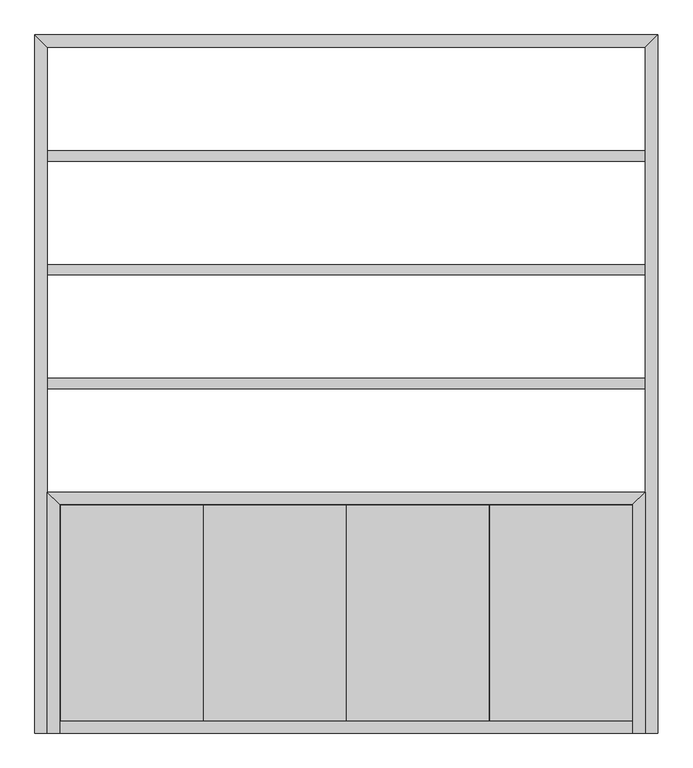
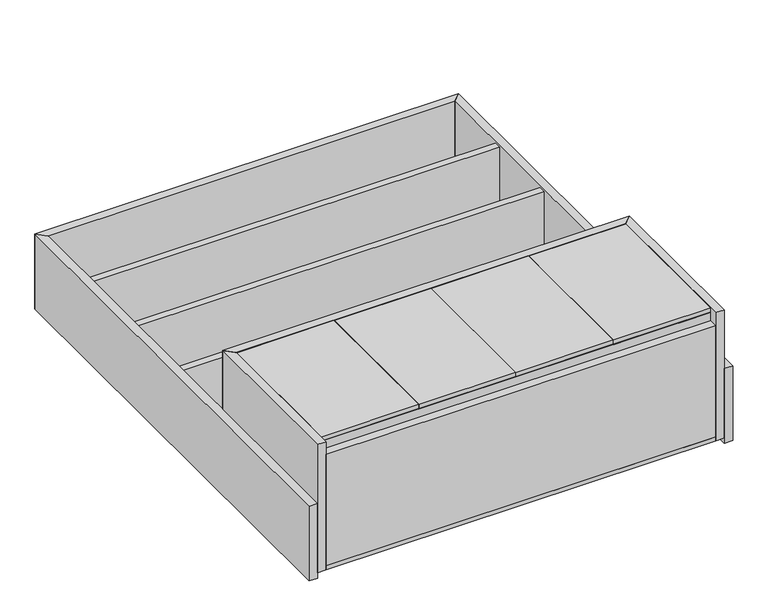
"""IFC4 building model written with IfcOpenShell, lengths in millimetres: proxy geometry, FOUNDATION^LOW CREDENZA UPPER SHELVES_25x84 4 DOOR-PARTS SOLID."""

from ifc_helpers import new_model, si_unit, frame, origin, origin_with_axes, place, context, project, spatial, polyline, outline, extrude, source, transform, mapped, element, save


def generic_models_0d1b17e7(model_context):
    return source(origin(), model_context, "Body", "SweptSolid", [
        extrude(outline(polyline([(962.025, 57.15), (942.975, 57.15), (942.975, 698.5), (962.025, 698.5), (962.025, 57.15)])), frame((0.0, 0.0, 44.45), z_axis=(0.0, 0.0, 1.0), x_axis=(1.0, 0.0, 0.0)), (0.0, 0.0, 1.0), 568.325),
        extrude(outline(polyline([(1866.9, 2095.5), (1905.0, 2133.6), (1905.0, 0.0), (1866.9, 0.0), (1866.9, 2095.5)])), origin_with_axes(), (0.0, 0.0, 1.0), 355.6),
        extrude(outline(polyline([(1828.8, 698.5), (1866.9, 736.6), (1866.9, 0.0), (1828.8, 0.0), (1828.8, 698.5)])), frame((0.0, 0.0, 25.4), z_axis=(0.0, 0.0, 1.0), x_axis=(1.0, 0.0, 0.0)), (0.0, 0.0, 1.0), 609.6),
        extrude(outline(polyline([(1828.8, 38.1), (76.2, 38.1), (76.2, 57.15), (1828.8, 57.15), (1828.8, 38.1)])), frame((0.0, 0.0, 44.45), z_axis=(0.0, 0.0, 1.0), x_axis=(1.0, 0.0, 0.0)), (0.0, 0.0, 1.0), 568.325),
        extrude(outline(polyline([(519.1125, 57.15), (500.0625, 57.15), (500.0625, 698.5), (519.1125, 698.5), (519.1125, 57.15)])), frame((0.0, 0.0, 44.45), z_axis=(0.0, 0.0, 1.0), x_axis=(1.0, 0.0, 0.0)), (0.0, 0.0, 1.0), 568.325),
        extrude(outline(polyline([(1391.2453125, 38.1), (1391.2453125, 696.11875), (1826.41875, 696.11875), (1826.41875, 38.1), (1391.2453125, 38.1)])), frame((0.0, 0.0, 615.95), z_axis=(0.0, 0.0, 1.0), x_axis=(1.0, 0.0, 0.0)), (0.0, 0.0, 1.0), 19.05),
        extrude(outline(polyline([(953.690625, 38.1), (953.690625, 696.11875), (1388.8640625, 696.11875), (1388.8640625, 38.1), (953.690625, 38.1)])), frame((0.0, 0.0, 615.95), z_axis=(0.0, 0.0, 1.0), x_axis=(1.0, 0.0, 0.0)), (0.0, 0.0, 1.0), 19.05),
        extrude(outline(polyline([(1404.9375, 57.15), (1385.8875, 57.15), (1385.8875, 698.5), (1404.9375, 698.5), (1404.9375, 57.15)])), frame((0.0, 0.0, 44.45), z_axis=(0.0, 0.0, 1.0), x_axis=(1.0, 0.0, 0.0)), (0.0, 0.0, 1.0), 568.325),
        extrude(outline(polyline([(1866.9, 736.6), (1828.8, 698.5), (76.2, 698.5), (38.1, 736.6), (1866.9, 736.6)])), frame((0.0, 0.0, 25.4), z_axis=(0.0, 0.0, 1.0), x_axis=(1.0, 0.0, 0.0)), (0.0, 0.0, 1.0), 609.6),
        extrude(outline(polyline([(78.58125, 38.1), (78.58125, 696.11875), (513.7546875, 696.11875), (513.7546875, 38.1), (78.58125, 38.1)])), frame((0.0, 0.0, 615.95), z_axis=(0.0, 0.0, 1.0), x_axis=(1.0, 0.0, 0.0)), (0.0, 0.0, 1.0), 19.05),
        extrude(outline(polyline([(76.2, 0.0), (76.2, 698.5), (1828.8, 698.5), (1828.8, 0.0), (76.2, 0.0)])), frame((0.0, 0.0, 25.4), z_axis=(0.0, 0.0, 1.0), x_axis=(1.0, 0.0, 0.0)), (0.0, 0.0, 1.0), 19.05),
        extrude(outline(polyline([(0.0, 2133.6), (1905.0, 2133.6), (1866.9, 2095.5), (38.1, 2095.5), (0.0, 2133.6)])), origin_with_axes(), (0.0, 0.0, 1.0), 355.6),
        extrude(outline(polyline([(1828.8, 38.1), (1828.8, 0.0), (76.2, 0.0), (76.2, 38.1), (1828.8, 38.1)])), frame((0.0, 0.0, 44.45), z_axis=(0.0, 0.0, 1.0), x_axis=(1.0, 0.0, 0.0)), (0.0, 0.0, 1.0), 530.225),
        extrude(outline(polyline([(1865.3125, 1084.2625), (1865.3125, 1052.5125), (39.6875, 1052.5125), (39.6875, 1084.2625), (1865.3125, 1084.2625)])), frame((0.0, 0.0, 6.35), z_axis=(0.0, 0.0, 1.0), x_axis=(1.0, 0.0, 0.0)), (0.0, 0.0, 1.0), 342.9),
        extrude(outline(polyline([(516.1359375, 38.1), (516.1359375, 696.11875), (951.309375, 696.11875), (951.309375, 38.1), (516.1359375, 38.1)])), frame((0.0, 0.0, 615.95), z_axis=(0.0, 0.0, 1.0), x_axis=(1.0, 0.0, 0.0)), (0.0, 0.0, 1.0), 19.05),
        extrude(outline(polyline([(38.1, 0.0), (0.0, 0.0), (0.0, 2133.6), (38.1, 2095.5), (38.1, 0.0)])), origin_with_axes(), (0.0, 0.0, 1.0), 355.6),
        extrude(outline(polyline([(1865.3125, 1779.5875), (1865.3125, 1747.8375), (39.6875, 1747.8375), (39.6875, 1779.5875), (1865.3125, 1779.5875)])), frame((0.0, 0.0, 6.35), z_axis=(0.0, 0.0, 1.0), x_axis=(1.0, 0.0, 0.0)), (0.0, 0.0, 1.0), 342.9),
        extrude(outline(polyline([(1865.3125, 1431.925), (1865.3125, 1400.175), (39.6875, 1400.175), (39.6875, 1431.925), (1865.3125, 1431.925)])), frame((0.0, 0.0, 6.35), z_axis=(0.0, 0.0, 1.0), x_axis=(1.0, 0.0, 0.0)), (0.0, 0.0, 1.0), 342.9),
        extrude(outline(polyline([(38.1, 736.6), (76.2, 698.5), (76.2, 0.0), (38.1, 0.0), (38.1, 736.6)])), frame((0.0, 0.0, 25.4), z_axis=(0.0, 0.0, 1.0), x_axis=(1.0, 0.0, 0.0)), (0.0, 0.0, 1.0), 609.6),
    ])


if __name__ == "__main__":
    model = new_model("IFC4")
    model_context = context("Model", 3, world=origin())
    ifc_project = project(units=[si_unit("LENGTHUNIT", "METRE", prefix="MILLI")], contexts=[model_context])
    site = spatial("IfcSite", under=ifc_project)
    building = spatial("IfcBuilding", under=site)
    placement = place(None, origin())
    generic_models_shape = generic_models_0d1b17e7(model_context)
    element("IfcBuildingElementProxy", 1, Name="FOUNDATION^LOW CREDENZA UPPER SHELVES_25x84 4 DOOR-PARTS SOLID", ObjectType="FOUNDATION^LOW CREDENZA UPPER SHELVES_25x84 4 DOOR-PARTS SOLID", at=placement, inside=building, context=model_context, shape_type="MappedRepresentation", body=[
        mapped(generic_models_shape, transform((0.0, 0.0, 0.0), x_axis=(1.0, 0.0, 0.0), y_axis=(0.0, 1.0, 0.0), z_axis=(0.0, 0.0, 1.0))),
    ])
    save(model, "model.ifc")
